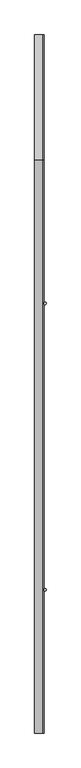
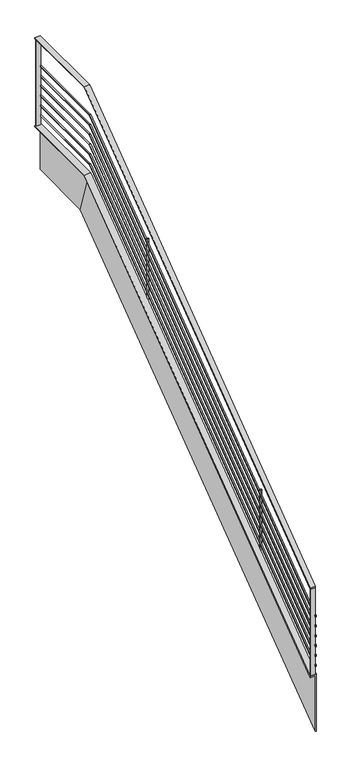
"""IFC4 building model written with IfcOpenShell, lengths in millimetres: railing geometry, Pletina y tubos pancha cubre forjado."""

from ifc_helpers import new_model, si_unit, frame, origin, place, context, project, spatial, polyline, circle_curve, ellipse_curve, outline, extrude, faceted_brep, source, transform, mapped, element, save
from ifc_brep_helpers import plane_surface, cylinder_surface, advanced_brep


def railing_eccc1b04(model_context):
    return source(origin(), model_context, "Body", "SolidModel", [
        faceted_brep([(3760.5350958, -5262.6669037, 3437.5), (3760.5350958, -5262.6669037, 2875.0), (3770.5350958, -5262.6669037, 2875.0), (3770.5350958, -5262.6669037, 3450.0), (3710.5350958, -5262.6669037, 3450.0), (3710.5350958, -5262.6669037, 3437.5), (3710.5350958, -1512.6669037, 6250.0), (3760.5350958, -1512.6669037, 6250.0), (3760.5350958, -693.1853621, 6250.0), (3710.5350958, -693.1853621, 6250.0), (3710.5350958, -693.1853621, 6260.0), (3770.5350958, -693.1853621, 6260.0), (3770.5350958, -693.1853621, 5800.0), (3760.5350958, -693.1853621, 5800.0), (3760.5350958, -1362.6669037, 5800.0), (3770.5350958, -1362.6669037, 5800.0), (3770.5350958, -1516.000237, 6260.0), (3710.5350958, -1516.000237, 6260.0)], [[[0, 1, 2, 3, 4, 5]], [[0, 5, 6, 7]], [[8, 9, 10, 11, 12, 13]], [[7, 6, 9, 8]], [[1, 0, 7, 14]], [[2, 1, 14, 15]], [[3, 2, 15, 16]], [[4, 3, 16, 17]], [[5, 4, 17, 6]], [[14, 7, 8, 13]], [[15, 14, 13, 12]], [[16, 15, 12, 11]], [[17, 16, 11, 10]], [[6, 17, 10, 9]]]),
        advanced_brep(
        [(3758.5350958, -5262.6669037, 3537.5), (3770.5350958, -5262.6669037, 3537.5), (3758.5350958, -1512.6669037, 6350.0), (3770.5350958, -1512.6669037, 6350.0), (3758.5350958, -693.1853621, 6350.0), (3770.5350958, -693.1853621, 6350.0)],
        [
            (0, 1, ellipse_curve(frame((3764.5350958, -5262.6669037, 3537.5), z_axis=(0.0, -1.0, 0.0), x_axis=(0.0, 0.0, -1.0)), 7.5, 6.0)),
            (1, 0, ellipse_curve(frame((3764.5350958, -5262.6669037, 3537.5), z_axis=(0.0, -1.0, 0.0), x_axis=(0.0, 0.0, -1.0)), 7.5, 6.0)),
            (0, 2),
            (2, 3, ellipse_curve(frame((3764.5350958, -1512.6669037, 6350.0), z_axis=(0.0, -0.9486832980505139, -0.31622776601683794), x_axis=(0.0, 0.3162277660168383, -0.9486832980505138)), 6.3245553, 6.0)),
            (3, 1),
            (3, 2, ellipse_curve(frame((3764.5350958, -1512.6669037, 6350.0), z_axis=(0.0, -0.9486832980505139, -0.31622776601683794), x_axis=(0.0, 0.3162277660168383, -0.9486832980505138)), 6.3245553, 6.0)),
            (4, 5, circle_curve(frame((3764.5350958, -693.1853621, 6350.0), z_axis=(0.0, 1.0, 0.0), x_axis=(1.0, 0.0, 0.0)), 6.0)),
            (5, 4, circle_curve(frame((3764.5350958, -693.1853621, 6350.0), z_axis=(0.0, 1.0, 0.0), x_axis=(1.0, 0.0, 0.0)), 6.0)),
            (2, 4),
            (5, 3),
        ],
        [
            plane_surface(frame((3764.5350958, -5262.6669037, 3537.5), z_axis=(0.0, -1.0, 0.0), x_axis=(0.0, 0.0, 1.0))),
            cylinder_surface(frame((3764.5350958, -5262.6669037, 3537.5), z_axis=(0.0, -0.8, -0.6), x_axis=(1.0, 0.0, 0.0)), 6.0),
            plane_surface(frame((3764.5350958, -693.1853621, 6350.0), z_axis=(0.0, 1.0, 0.0), x_axis=(0.0, 0.0, 1.0))),
            cylinder_surface(frame((3764.5350958, -1512.6669037, 6350.0), z_axis=(0.0, -1.0, 0.0), x_axis=(1.0, 0.0, 0.0)), 6.0),
        ],
        [
            (0, [[1, 2]]),
            (1, [[-1, 3, 4, 5]]),
            (1, [[-2, -5, 6, -3]]),
            (2, [[7, 8]]),
            (3, [[-4, 9, -8, 10]]),
            (3, [[-6, -10, -7, -9]]),
        ],
    ),
        advanced_brep(
        [(3758.5350958, -5262.6669037, 3637.5), (3770.5350958, -5262.6669037, 3637.5), (3758.5350958, -1512.6669037, 6450.0), (3770.5350958, -1512.6669037, 6450.0), (3758.5350958, -693.1853621, 6450.0), (3770.5350958, -693.1853621, 6450.0)],
        [
            (0, 1, ellipse_curve(frame((3764.5350958, -5262.6669037, 3637.5), z_axis=(0.0, -1.0, 0.0), x_axis=(0.0, 0.0, -1.0)), 7.5, 6.0)),
            (1, 0, ellipse_curve(frame((3764.5350958, -5262.6669037, 3637.5), z_axis=(0.0, -1.0, 0.0), x_axis=(0.0, 0.0, -1.0)), 7.5, 6.0)),
            (0, 2),
            (2, 3, ellipse_curve(frame((3764.5350958, -1512.6669037, 6450.0), z_axis=(0.0, -0.9486832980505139, -0.31622776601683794), x_axis=(0.0, 0.3162277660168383, -0.9486832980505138)), 6.3245553, 6.0)),
            (3, 1),
            (3, 2, ellipse_curve(frame((3764.5350958, -1512.6669037, 6450.0), z_axis=(0.0, -0.9486832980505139, -0.31622776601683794), x_axis=(0.0, 0.3162277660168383, -0.9486832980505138)), 6.3245553, 6.0)),
            (4, 5, circle_curve(frame((3764.5350958, -693.1853621, 6450.0), z_axis=(0.0, 1.0, 0.0), x_axis=(1.0, 0.0, 0.0)), 6.0)),
            (5, 4, circle_curve(frame((3764.5350958, -693.1853621, 6450.0), z_axis=(0.0, 1.0, 0.0), x_axis=(1.0, 0.0, 0.0)), 6.0)),
            (2, 4),
            (5, 3),
        ],
        [
            plane_surface(frame((3764.5350958, -5262.6669037, 3637.5), z_axis=(0.0, -1.0, 0.0), x_axis=(0.0, 0.0, 1.0))),
            cylinder_surface(frame((3764.5350958, -5262.6669037, 3637.5), z_axis=(0.0, -0.8, -0.6), x_axis=(1.0, 0.0, 0.0)), 6.0),
            plane_surface(frame((3764.5350958, -693.1853621, 6450.0), z_axis=(0.0, 1.0, 0.0), x_axis=(0.0, 0.0, 1.0))),
            cylinder_surface(frame((3764.5350958, -1512.6669037, 6450.0), z_axis=(0.0, -1.0, 0.0), x_axis=(1.0, 0.0, 0.0)), 6.0),
        ],
        [
            (0, [[1, 2]]),
            (1, [[-1, 3, 4, 5]]),
            (1, [[-2, -5, 6, -3]]),
            (2, [[7, 8]]),
            (3, [[-4, 9, -8, 10]]),
            (3, [[-6, -10, -7, -9]]),
        ],
    ),
        advanced_brep(
        [(3758.5350958, -5262.6669037, 3737.5), (3770.5350958, -5262.6669037, 3737.5), (3758.5350958, -1512.6669037, 6550.0), (3770.5350958, -1512.6669037, 6550.0), (3758.5350958, -693.1853621, 6550.0), (3770.5350958, -693.1853621, 6550.0)],
        [
            (0, 1, ellipse_curve(frame((3764.5350958, -5262.6669037, 3737.5), z_axis=(0.0, -1.0, 0.0), x_axis=(0.0, 0.0, -1.0)), 7.5, 6.0)),
            (1, 0, ellipse_curve(frame((3764.5350958, -5262.6669037, 3737.5), z_axis=(0.0, -1.0, 0.0), x_axis=(0.0, 0.0, -1.0)), 7.5, 6.0)),
            (0, 2),
            (2, 3, ellipse_curve(frame((3764.5350958, -1512.6669037, 6550.0), z_axis=(0.0, -0.9486832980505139, -0.31622776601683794), x_axis=(0.0, 0.3162277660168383, -0.9486832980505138)), 6.3245553, 6.0)),
            (3, 1),
            (3, 2, ellipse_curve(frame((3764.5350958, -1512.6669037, 6550.0), z_axis=(0.0, -0.9486832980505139, -0.31622776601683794), x_axis=(0.0, 0.3162277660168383, -0.9486832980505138)), 6.3245553, 6.0)),
            (4, 5, circle_curve(frame((3764.5350958, -693.1853621, 6550.0), z_axis=(0.0, 1.0, 0.0), x_axis=(1.0, 0.0, 0.0)), 6.0)),
            (5, 4, circle_curve(frame((3764.5350958, -693.1853621, 6550.0), z_axis=(0.0, 1.0, 0.0), x_axis=(1.0, 0.0, 0.0)), 6.0)),
            (2, 4),
            (5, 3),
        ],
        [
            plane_surface(frame((3764.5350958, -5262.6669037, 3737.5), z_axis=(0.0, -1.0, 0.0), x_axis=(0.0, 0.0, 1.0))),
            cylinder_surface(frame((3764.5350958, -5262.6669037, 3737.5), z_axis=(0.0, -0.8, -0.6), x_axis=(1.0, 0.0, 0.0)), 6.0),
            plane_surface(frame((3764.5350958, -693.1853621, 6550.0), z_axis=(0.0, 1.0, 0.0), x_axis=(0.0, 0.0, 1.0))),
            cylinder_surface(frame((3764.5350958, -1512.6669037, 6550.0), z_axis=(0.0, -1.0, 0.0), x_axis=(1.0, 0.0, 0.0)), 6.0),
        ],
        [
            (0, [[1, 2]]),
            (1, [[-1, 3, 4, 5]]),
            (1, [[-2, -5, 6, -3]]),
            (2, [[7, 8]]),
            (3, [[-4, 9, -8, 10]]),
            (3, [[-6, -10, -7, -9]]),
        ],
    ),
        advanced_brep(
        [(3758.5350958, -5262.6669037, 3837.5), (3770.5350958, -5262.6669037, 3837.5), (3758.5350958, -1512.6669037, 6650.0), (3770.5350958, -1512.6669037, 6650.0), (3758.5350958, -693.1853621, 6650.0), (3770.5350958, -693.1853621, 6650.0)],
        [
            (0, 1, ellipse_curve(frame((3764.5350958, -5262.6669037, 3837.5), z_axis=(0.0, -1.0, 0.0), x_axis=(0.0, 0.0, -1.0)), 7.5, 6.0)),
            (1, 0, ellipse_curve(frame((3764.5350958, -5262.6669037, 3837.5), z_axis=(0.0, -1.0, 0.0), x_axis=(0.0, 0.0, -1.0)), 7.5, 6.0)),
            (0, 2),
            (2, 3, ellipse_curve(frame((3764.5350958, -1512.6669037, 6650.0), z_axis=(0.0, -0.9486832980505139, -0.31622776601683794), x_axis=(0.0, 0.3162277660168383, -0.9486832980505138)), 6.3245553, 6.0)),
            (3, 1),
            (3, 2, ellipse_curve(frame((3764.5350958, -1512.6669037, 6650.0), z_axis=(0.0, -0.9486832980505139, -0.31622776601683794), x_axis=(0.0, 0.3162277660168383, -0.9486832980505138)), 6.3245553, 6.0)),
            (4, 5, circle_curve(frame((3764.5350958, -693.1853621, 6650.0), z_axis=(0.0, 1.0, 0.0), x_axis=(1.0, 0.0, 0.0)), 6.0)),
            (5, 4, circle_curve(frame((3764.5350958, -693.1853621, 6650.0), z_axis=(0.0, 1.0, 0.0), x_axis=(1.0, 0.0, 0.0)), 6.0)),
            (2, 4),
            (5, 3),
        ],
        [
            plane_surface(frame((3764.5350958, -5262.6669037, 3837.5), z_axis=(0.0, -1.0, 0.0), x_axis=(0.0, 0.0, 1.0))),
            cylinder_surface(frame((3764.5350958, -5262.6669037, 3837.5), z_axis=(0.0, -0.8, -0.6), x_axis=(1.0, 0.0, 0.0)), 6.0),
            plane_surface(frame((3764.5350958, -693.1853621, 6650.0), z_axis=(0.0, 1.0, 0.0), x_axis=(0.0, 0.0, 1.0))),
            cylinder_surface(frame((3764.5350958, -1512.6669037, 6650.0), z_axis=(0.0, -1.0, 0.0), x_axis=(1.0, 0.0, 0.0)), 6.0),
        ],
        [
            (0, [[1, 2]]),
            (1, [[-1, 3, 4, 5]]),
            (1, [[-2, -5, 6, -3]]),
            (2, [[7, 8]]),
            (3, [[-4, 9, -8, 10]]),
            (3, [[-6, -10, -7, -9]]),
        ],
    ),
        advanced_brep(
        [(3758.5350958, -5262.6669037, 3937.5), (3770.5350958, -5262.6669037, 3937.5), (3758.5350958, -1512.6669037, 6750.0), (3770.5350958, -1512.6669037, 6750.0), (3758.5350958, -693.1853621, 6750.0), (3770.5350958, -693.1853621, 6750.0)],
        [
            (0, 1, ellipse_curve(frame((3764.5350958, -5262.6669037, 3937.5), z_axis=(0.0, -1.0, 0.0), x_axis=(0.0, 0.0, -1.0)), 7.5, 6.0)),
            (1, 0, ellipse_curve(frame((3764.5350958, -5262.6669037, 3937.5), z_axis=(0.0, -1.0, 0.0), x_axis=(0.0, 0.0, -1.0)), 7.5, 6.0)),
            (0, 2),
            (2, 3, ellipse_curve(frame((3764.5350958, -1512.6669037, 6750.0), z_axis=(0.0, -0.9486832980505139, -0.31622776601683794), x_axis=(0.0, 0.3162277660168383, -0.9486832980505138)), 6.3245553, 6.0)),
            (3, 1),
            (3, 2, ellipse_curve(frame((3764.5350958, -1512.6669037, 6750.0), z_axis=(0.0, -0.9486832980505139, -0.31622776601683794), x_axis=(0.0, 0.3162277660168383, -0.9486832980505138)), 6.3245553, 6.0)),
            (4, 5, circle_curve(frame((3764.5350958, -693.1853621, 6750.0), z_axis=(0.0, 1.0, 0.0), x_axis=(1.0, 0.0, 0.0)), 6.0)),
            (5, 4, circle_curve(frame((3764.5350958, -693.1853621, 6750.0), z_axis=(0.0, 1.0, 0.0), x_axis=(1.0, 0.0, 0.0)), 6.0)),
            (2, 4),
            (5, 3),
        ],
        [
            plane_surface(frame((3764.5350958, -5262.6669037, 3937.5), z_axis=(0.0, -1.0, 0.0), x_axis=(0.0, 0.0, 1.0))),
            cylinder_surface(frame((3764.5350958, -5262.6669037, 3937.5), z_axis=(0.0, -0.8, -0.6), x_axis=(1.0, 0.0, 0.0)), 6.0),
            plane_surface(frame((3764.5350958, -693.1853621, 6750.0), z_axis=(0.0, 1.0, 0.0), x_axis=(0.0, 0.0, 1.0))),
            cylinder_surface(frame((3764.5350958, -1512.6669037, 6750.0), z_axis=(0.0, -1.0, 0.0), x_axis=(1.0, 0.0, 0.0)), 6.0),
        ],
        [
            (0, [[1, 2]]),
            (1, [[-1, 3, 4, 5]]),
            (1, [[-2, -5, 6, -3]]),
            (2, [[7, 8]]),
            (3, [[-4, 9, -8, 10]]),
            (3, [[-6, -10, -7, -9]]),
        ],
    ),
        advanced_brep(
        [(3758.5350958, -5262.6669037, 4037.5), (3770.5350958, -5262.6669037, 4037.5), (3758.5350958, -1512.6669037, 6850.0), (3770.5350958, -1512.6669037, 6850.0), (3758.5350958, -693.1853621, 6850.0), (3770.5350958, -693.1853621, 6850.0)],
        [
            (0, 1, ellipse_curve(frame((3764.5350958, -5262.6669037, 4037.5), z_axis=(0.0, -1.0, 0.0), x_axis=(0.0, 0.0, -1.0)), 7.5, 6.0)),
            (1, 0, ellipse_curve(frame((3764.5350958, -5262.6669037, 4037.5), z_axis=(0.0, -1.0, 0.0), x_axis=(0.0, 0.0, -1.0)), 7.5, 6.0)),
            (0, 2),
            (2, 3, ellipse_curve(frame((3764.5350958, -1512.6669037, 6850.0), z_axis=(0.0, -0.9486832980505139, -0.31622776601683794), x_axis=(0.0, 0.3162277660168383, -0.9486832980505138)), 6.3245553, 6.0)),
            (3, 1),
            (3, 2, ellipse_curve(frame((3764.5350958, -1512.6669037, 6850.0), z_axis=(0.0, -0.9486832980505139, -0.31622776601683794), x_axis=(0.0, 0.3162277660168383, -0.9486832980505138)), 6.3245553, 6.0)),
            (4, 5, circle_curve(frame((3764.5350958, -693.1853621, 6850.0), z_axis=(0.0, 1.0, 0.0), x_axis=(1.0, 0.0, 0.0)), 6.0)),
            (5, 4, circle_curve(frame((3764.5350958, -693.1853621, 6850.0), z_axis=(0.0, 1.0, 0.0), x_axis=(1.0, 0.0, 0.0)), 6.0)),
            (2, 4),
            (5, 3),
        ],
        [
            plane_surface(frame((3764.5350958, -5262.6669037, 4037.5), z_axis=(0.0, -1.0, 0.0), x_axis=(0.0, 0.0, 1.0))),
            cylinder_surface(frame((3764.5350958, -5262.6669037, 4037.5), z_axis=(0.0, -0.8, -0.6), x_axis=(1.0, 0.0, 0.0)), 6.0),
            plane_surface(frame((3764.5350958, -693.1853621, 6850.0), z_axis=(0.0, 1.0, 0.0), x_axis=(0.0, 0.0, 1.0))),
            cylinder_surface(frame((3764.5350958, -1512.6669037, 6850.0), z_axis=(0.0, -1.0, 0.0), x_axis=(1.0, 0.0, 0.0)), 6.0),
        ],
        [
            (0, [[1, 2]]),
            (1, [[-1, 3, 4, 5]]),
            (1, [[-2, -5, 6, -3]]),
            (2, [[7, 8]]),
            (3, [[-4, 9, -8, 10]]),
            (3, [[-6, -10, -7, -9]]),
        ],
    ),
        faceted_brep([(3760.5350958, -5262.6669037, 4343.75), (3710.5350958, -5262.6669037, 4343.75), (3710.5350958, -5262.6669037, 4331.25), (3760.5350958, -5262.6669037, 4331.25), (3760.5350958, -1514.3335704, 7155.0), (3710.5350958, -1514.3335704, 7155.0), (3710.5350958, -1511.000237, 7145.0), (3760.5350958, -1511.000237, 7145.0), (3760.5350958, -693.1853621, 7155.0), (3760.5350958, -693.1853621, 7145.0), (3710.5350958, -693.1853621, 7145.0), (3710.5350958, -693.1853621, 7155.0)], [[[0, 1, 2, 3]], [[1, 0, 4, 5]], [[2, 1, 5, 6]], [[3, 2, 6, 7]], [[0, 3, 7, 4]], [[8, 9, 10, 11]], [[5, 4, 8, 11]], [[6, 5, 11, 10]], [[7, 6, 10, 9]], [[4, 7, 9, 8]]]),
        advanced_brep(
        [(3770.5350958, -2450.1669037, 6156.875), (3786.5350958, -2450.1669037, 6156.875), (3786.5350958, -2450.1669037, 5559.375), (3770.5350958, -2450.1669037, 5559.375)],
        [
            (0, 1, circle_curve(frame((3778.5350958, -2450.1669037, 6156.875), z_axis=(0.0, 0.0, -1.0), x_axis=(-1.0, 0.0, 0.0)), 8.0)),
            (1, 2),
            (2, 3, ellipse_curve(frame((3778.5350958, -2450.1669037, 5559.375), z_axis=(0.0, -0.6000000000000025, 0.799999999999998), x_axis=(0.0, 0.799999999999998, 0.6000000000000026)), 10.0, 8.0)),
            (3, 0),
            (1, 0, circle_curve(frame((3778.5350958, -2450.1669037, 6156.875), z_axis=(0.0, 0.0, -1.0), x_axis=(-1.0, 0.0, 0.0)), 8.0)),
            (3, 2, ellipse_curve(frame((3778.5350958, -2450.1669037, 5559.375), z_axis=(0.0, -0.6000000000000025, 0.799999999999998), x_axis=(0.0, 0.799999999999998, 0.6000000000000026)), 10.0, 8.0)),
        ],
        [
            cylinder_surface(frame((3778.5350958, -2450.1669037, 5379.375), z_axis=(0.0, 0.0, 1.0), x_axis=(-1.0, 0.0, 0.0)), 8.0),
            plane_surface(frame((3688.5350958, -2360.1669037, 6156.875), z_axis=(0.0, 0.0, 1.0), x_axis=(1.0, 0.0, 0.0))),
            plane_surface(frame((3688.5350958, -2540.1669037, 5491.875), z_axis=(0.0, 0.6000000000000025, -0.799999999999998), x_axis=(1.0, 0.0, 0.0))),
        ],
        [
            (0, [[1, 2, 3, 4]]),
            (0, [[5, -4, 6, -2]]),
            (1, [[-1, -5]]),
            (2, [[-3, -6]]),
        ],
    ),
        advanced_brep(
        [(3770.5350958, -4325.1669037, 4750.625), (3786.5350958, -4325.1669037, 4750.625), (3786.5350958, -4325.1669037, 4153.125), (3770.5350958, -4325.1669037, 4153.125)],
        [
            (0, 1, circle_curve(frame((3778.5350958, -4325.1669037, 4750.625), z_axis=(0.0, 0.0, -1.0), x_axis=(-1.0, 0.0, 0.0)), 8.0)),
            (1, 2),
            (2, 3, ellipse_curve(frame((3778.5350958, -4325.1669037, 4153.125), z_axis=(0.0, -0.6000000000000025, 0.799999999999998), x_axis=(0.0, 0.799999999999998, 0.6000000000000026)), 10.0, 8.0)),
            (3, 0),
            (1, 0, circle_curve(frame((3778.5350958, -4325.1669037, 4750.625), z_axis=(0.0, 0.0, -1.0), x_axis=(-1.0, 0.0, 0.0)), 8.0)),
            (3, 2, ellipse_curve(frame((3778.5350958, -4325.1669037, 4153.125), z_axis=(0.0, -0.6000000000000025, 0.799999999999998), x_axis=(0.0, 0.799999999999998, 0.6000000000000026)), 10.0, 8.0)),
        ],
        [
            cylinder_surface(frame((3778.5350958, -4325.1669037, 3973.125), z_axis=(0.0, 0.0, 1.0), x_axis=(-1.0, 0.0, 0.0)), 8.0),
            plane_surface(frame((3688.5350958, -4235.1669037, 4750.625), z_axis=(0.0, 0.0, 1.0), x_axis=(1.0, 0.0, 0.0))),
            plane_surface(frame((3688.5350958, -4415.1669037, 4085.625), z_axis=(0.0, 0.6000000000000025, -0.799999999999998), x_axis=(1.0, 0.0, 0.0))),
        ],
        [
            (0, [[1, 2, 3, 4]]),
            (0, [[5, -4, 6, -2]]),
            (1, [[-1, -5]]),
            (2, [[-3, -6]]),
        ],
    ),
        extrude(outline(polyline([(3718.5350958, -703.1853621), (3718.5350958, -693.1853621), (3758.5350958, -693.1853621), (3758.5350958, -703.1853621), (3718.5350958, -703.1853621)])), frame((0.0, 0.0, 6260.0), z_axis=(0.0, 0.0, 1.0), x_axis=(1.0, 0.0, 0.0)), (0.0, 0.0, 1.0), 885.0),
        extrude(outline(polyline([(3718.5350958, -5262.6669037), (3718.5350958, -5252.6669037), (3758.5350958, -5252.6669037), (3758.5350958, -5262.6669037), (3718.5350958, -5262.6669037)])), frame((0.0, 0.0, 3453.75), z_axis=(0.0, 0.0, 1.0), x_axis=(1.0, 0.0, 0.0)), (0.0, 0.0, 1.0), 881.25),
    ])


if __name__ == "__main__":
    model = new_model("IFC4")
    model_context = context("Model", 3, world=origin())
    ifc_project = project(units=[si_unit("LENGTHUNIT", "METRE", prefix="MILLI")], contexts=[model_context])
    site = spatial("IfcSite", under=ifc_project)
    building = spatial("IfcBuilding", under=site)
    placement = place(None, origin())
    railing_shape = railing_eccc1b04(model_context)
    element("IfcRailing", 1, ObjectType="Pletina y tubos pancha cubre forjado", at=placement, inside=building, context=model_context, shape_type="MappedRepresentation", body=[
        mapped(railing_shape, transform((0.0, 0.0, 0.0), x_axis=(1.0, 0.0, 0.0), y_axis=(0.0, 1.0, 0.0), z_axis=(0.0, 0.0, 1.0))),
    ])
    save(model, "model.ifc")
